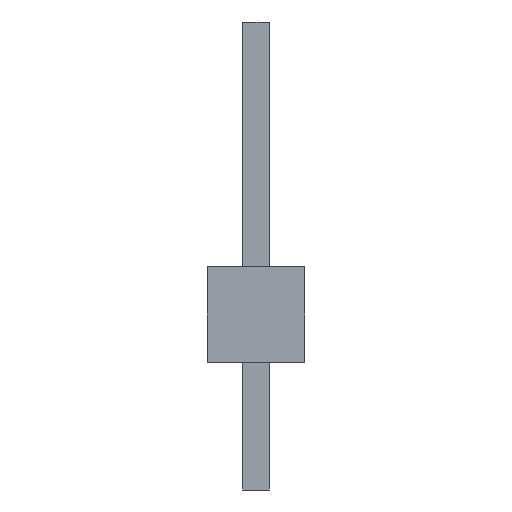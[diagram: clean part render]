
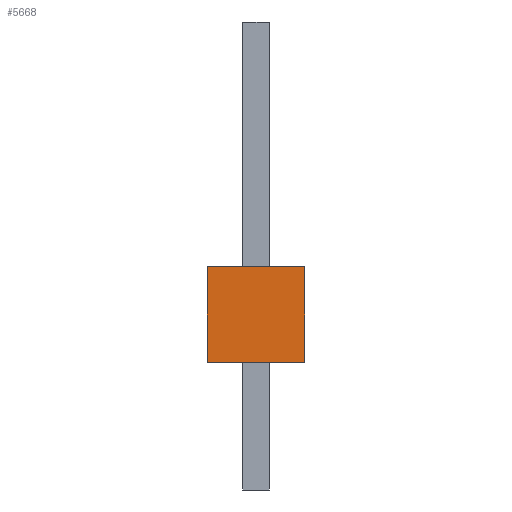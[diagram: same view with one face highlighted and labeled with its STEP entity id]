
A CAD part, left-side view. The second image highlights one B-rep face of the part: STEP entity #5668.
In plain terms, the highlighted planar face has unit normal (-1, 0, 0).
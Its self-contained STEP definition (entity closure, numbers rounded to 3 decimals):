
#466=DIRECTION('',(0.,1.,0.));
#467=VECTOR('',#466,2.337);
#468=CARTESIAN_POINT('',(-25.197,-1.168,0.));
#469=LINE('',#468,#467);
#962=DIRECTION('',(0.,1.,0.));
#963=VECTOR('',#962,2.337);
#964=CARTESIAN_POINT('',(-25.197,-1.168,-2.286));
#965=LINE('',#964,#963);
#1746=DIRECTION('',(0.,0.,1.));
#1747=VECTOR('',#1746,2.286);
#1748=CARTESIAN_POINT('',(-25.197,1.168,-2.286));
#1749=LINE('',#1748,#1747);
#1902=DIRECTION('',(0.,0.,1.));
#1903=VECTOR('',#1902,2.286);
#1904=CARTESIAN_POINT('',(-25.197,-1.168,-2.286));
#1905=LINE('',#1904,#1903);
#3342=CARTESIAN_POINT('',(-25.197,-1.168,0.));
#3343=CARTESIAN_POINT('',(-25.197,1.168,0.));
#3344=VERTEX_POINT('',#3342);
#3345=VERTEX_POINT('',#3343);
#3350=CARTESIAN_POINT('',(-25.197,-1.168,-2.286));
#3351=CARTESIAN_POINT('',(-25.197,1.168,-2.286));
#3352=VERTEX_POINT('',#3350);
#3353=VERTEX_POINT('',#3351);
#5656=CARTESIAN_POINT('',(-25.197,1.168,0.));
#5657=DIRECTION('',(-1.,0.,0.));
#5658=DIRECTION('',(0.,-1.,0.));
#5659=AXIS2_PLACEMENT_3D('',#5656,#5657,#5658);
#5660=PLANE('',#5659);
#5661=ORIENTED_EDGE('',*,*,#4687,.F.);
#5663=ORIENTED_EDGE('',*,*,#5662,.F.);
#5664=ORIENTED_EDGE('',*,*,#5242,.T.);
#5665=ORIENTED_EDGE('',*,*,#5186,.T.);
#5666=EDGE_LOOP('',(#5661,#5663,#5664,#5665));
#5667=FACE_OUTER_BOUND('',#5666,.F.);
#4687=EDGE_CURVE('',#3344,#3345,#469,.T.);
#5186=EDGE_CURVE('',#3353,#3345,#1749,.T.);
#5242=EDGE_CURVE('',#3352,#3353,#965,.T.);
#5662=EDGE_CURVE('',#3352,#3344,#1905,.T.);
#5668=ADVANCED_FACE('',(#5667),#5660,.T.);
